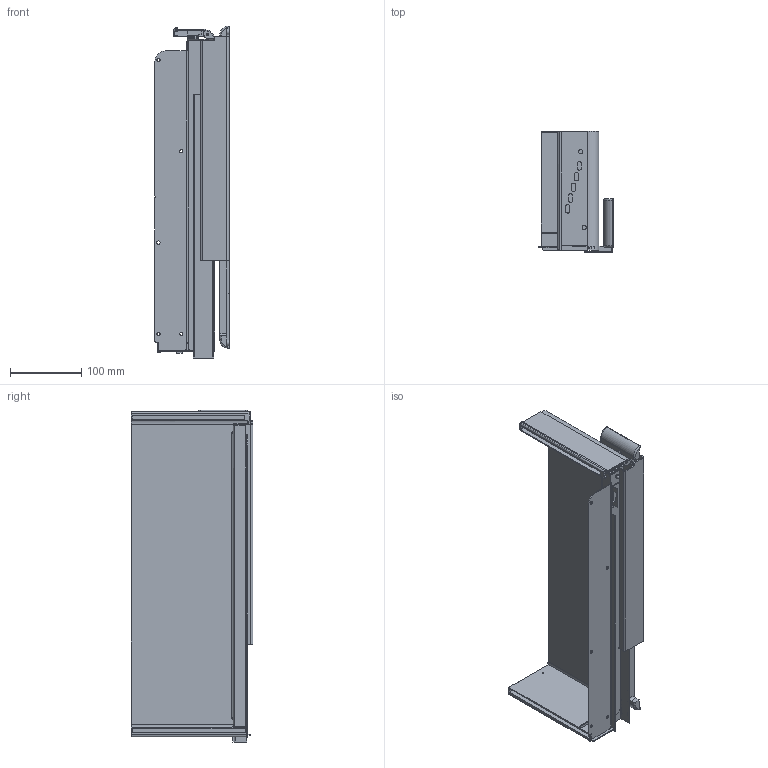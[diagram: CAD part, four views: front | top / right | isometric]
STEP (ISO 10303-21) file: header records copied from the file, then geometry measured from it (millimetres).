
FILE_DESCRIPTION((''),'2;1');
FILE_NAME('238389-RE_SW0001','2023-02-03T11:50:45',('1ke04'),('Kesseboehmer'),'CREO PARAMETRIC BY PTC INC, 2020414','CREO PARAMETRIC BY PTC INC, 2020414','');
FILE_SCHEMA(('AUTOMOTIVE_DESIGN { 1 0 10303 214 1 1 1 1 }'));
Length unit declared in the file: millimetre
Products named in the file (1): 238389-RE_SW0001
Bounding box: 103.9 x 170.3 x 465.09 mm (x, y, z)
Volume: 509730.6 mm3; surface area: 483398 mm2
Topology: 2 solids, 2 shells, 896 faces, 2313 edges, 1438 vertices
Faces by surface type: plane 509, cylinder 317, cone 52, torus 10, bspline 8
Entity records: 33020 total; most frequent: CARTESIAN_POINT 6957, DIRECTION 4741, ORIENTED_EDGE 4626, EDGE_CURVE 2313, AXIS2_PLACEMENT_3D 1601, VECTOR 1536, LINE 1536, VERTEX_POINT 1438
